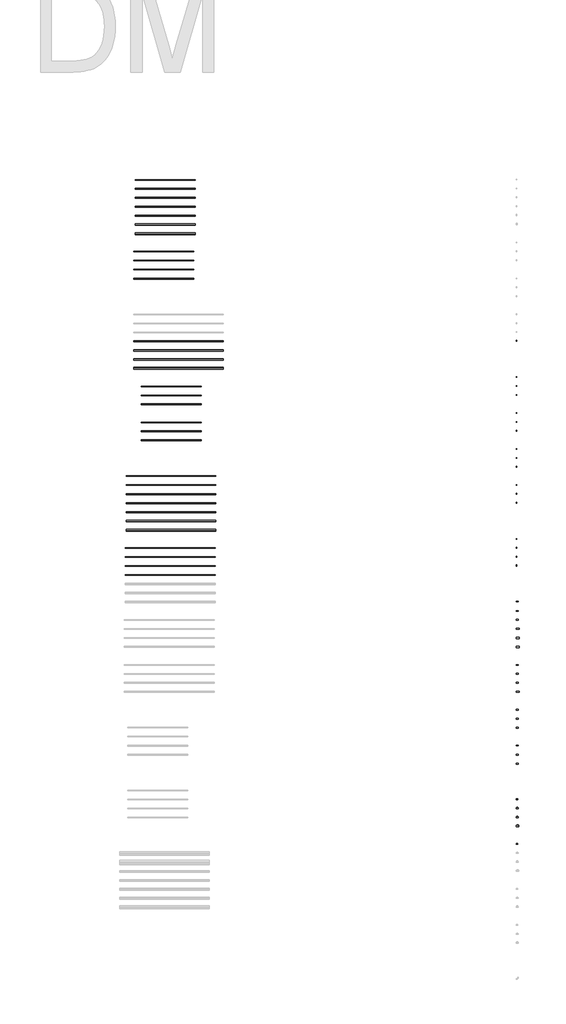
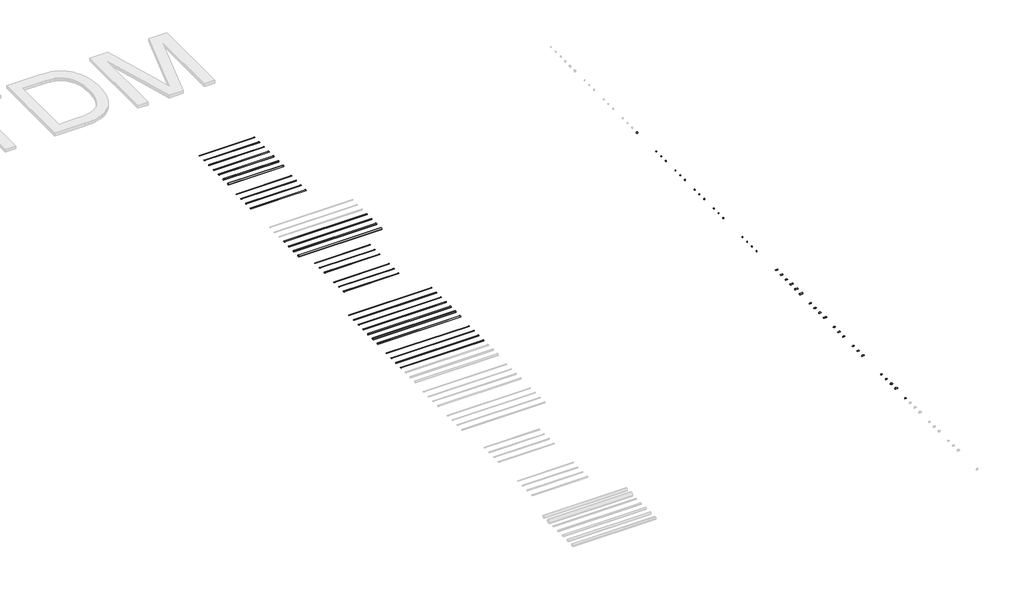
# One storey, part 2 of 3: 38 cable carrier fittings, 32 cable carrier segments.
"""IFC4 building model written with IfcOpenShell, lengths in millimetres."""

from ifc_helpers import new_model, si_unit, point, frame, frame_2d, origin, place, context, project, spatial, circle_curve, trimmed, segment, composite_curve, outline, extrude, transform, mapped, element, save
from components import cable_carrier_fitting_b63e1f67, cable_carrier_fitting_980a1c15, cable_carrier_fitting_f0880343, cable_carrier_fitting_b8314db6, cable_carrier_fitting_016265ef, cable_carrier_fitting_5e57e737, cable_carrier_fitting_914e6720, cable_carrier_fitting_5dce2548, cable_carrier_fitting_52ab9c74, cable_carrier_fitting_fdccebc8, cable_carrier_fitting_8a820bfa, cable_carrier_fitting_152d4620, cable_carrier_fitting_43ac811c, cable_carrier_fitting_233ad362, cable_carrier_fitting_b32524ae, cable_carrier_fitting_62cbf1a6, cable_carrier_fitting_25dcd06c, cable_carrier_fitting_f1925367

model = new_model("IFC4")

# Units and contexts
model_context = context("Model", 3, world=origin())
ifc_project = project(units=[si_unit("LENGTHUNIT", "METRE", prefix="MILLI")], contexts=[model_context])

# Site, building, storey
site = spatial("IfcSite", under=ifc_project)
building = spatial("IfcBuilding", under=site)
storey = spatial("IfcBuildingStorey", under=building, Name="Уровень 2", Elevation=4000.0)

# Cable carrier fittings
placement = place(None, origin())
cable_carrier_fitting_shape = cable_carrier_fitting_b63e1f67(model_context)
element("IfcCableCarrierFitting", 1, ObjectType="Крепеж-клипса_для_труб : Крепеж-клипса для трубы 32мм белая", at=placement, inside=storey, context=model_context, shape_type="MappedRepresentation", body=[
    mapped(cable_carrier_fitting_shape, transform((27300.1376507, 7937.159569, 4000.0), x_axis=(1.0, 0.0, 0.0), y_axis=(0.0, 1.0, 0.0), z_axis=(0.0, 0.0, 1.0))),
])
cable_carrier_fitting_2_shape = cable_carrier_fitting_980a1c15(model_context)
element("IfcCableCarrierFitting", 2, ObjectType="Крепеж-клипса_для_труб : Крепеж-клипса для трубы ПНД 16мм черный", at=placement, inside=storey, context=model_context, shape_type="MappedRepresentation", body=[
    mapped(cable_carrier_fitting_2_shape, transform((27300.1376507, 6729.159569, 4000.0), x_axis=(1.0, 0.0, 0.0), y_axis=(0.0, 1.0, 0.0), z_axis=(0.0, 0.0, 1.0))),
])
cable_carrier_fitting_3_shape = cable_carrier_fitting_f0880343(model_context)
element("IfcCableCarrierFitting", 3, ObjectType="Крепеж-клипса_для_труб : Крепеж-клипса для трубы ПНД 20мм черный", at=placement, inside=storey, context=model_context, shape_type="MappedRepresentation", body=[
    mapped(cable_carrier_fitting_3_shape, transform((27300.1376507, 6431.159569, 4000.0), x_axis=(1.0, 0.0, 0.0), y_axis=(0.0, 1.0, 0.0), z_axis=(0.0, 0.0, 1.0))),
])
cable_carrier_fitting_4_shape = cable_carrier_fitting_b8314db6(model_context)
element("IfcCableCarrierFitting", 4, ObjectType="Крепеж-клипса_для_труб : Крепеж-клипса для трубы ПНД 25мм черный", at=placement, inside=storey, context=model_context, shape_type="MappedRepresentation", body=[
    mapped(cable_carrier_fitting_4_shape, transform((27300.1376507, 6133.659569, 4000.0), x_axis=(1.0, 0.0, 0.0), y_axis=(0.0, 1.0, 0.0), z_axis=(0.0, 0.0, 1.0))),
])
element("IfcCableCarrierFitting", 5, ObjectType="Крепеж-клипса_для_труб : Крепеж-клипса для трубы ПНД 16мм оранжевая", at=placement, inside=storey, context=model_context, shape_type="MappedRepresentation", body=[
    mapped(cable_carrier_fitting_2_shape, transform((27300.1376507, 5529.159569, 4000.0), x_axis=(1.0, 0.0, 0.0), y_axis=(0.0, 1.0, 0.0), z_axis=(0.0, 0.0, 1.0))),
])
element("IfcCableCarrierFitting", 6, ObjectType="Крепеж-клипса_для_труб : Крепеж-клипса для трубы ПНД 20мм оранжевая", at=placement, inside=storey, context=model_context, shape_type="MappedRepresentation", body=[
    mapped(cable_carrier_fitting_3_shape, transform((27300.1376507, 5231.159569, 4000.0), x_axis=(1.0, 0.0, 0.0), y_axis=(0.0, 1.0, 0.0), z_axis=(0.0, 0.0, 1.0))),
])
element("IfcCableCarrierFitting", 7, ObjectType="Крепеж-клипса_для_труб : Крепеж-клипса для трубы ПНД 25мм оранжевая", at=placement, inside=storey, context=model_context, shape_type="MappedRepresentation", body=[
    mapped(cable_carrier_fitting_4_shape, transform((27300.1376507, 4933.659569, 4000.0), x_axis=(1.0, 0.0, 0.0), y_axis=(0.0, 1.0, 0.0), z_axis=(0.0, 0.0, 1.0))),
])
element("IfcCableCarrierFitting", 8, ObjectType="Крепеж-клипса_для_труб : Крепеж-клипса для трубы ПНД 16мм синяя", at=placement, inside=storey, context=model_context, shape_type="MappedRepresentation", body=[
    mapped(cable_carrier_fitting_2_shape, transform((27300.1376507, 4329.159569, 4000.0), x_axis=(1.0, 0.0, 0.0), y_axis=(0.0, 1.0, 0.0), z_axis=(0.0, 0.0, 1.0))),
])
element("IfcCableCarrierFitting", 9, ObjectType="Крепеж-клипса_для_труб : Крепеж-клипса для трубы ПНД 20мм синяя", at=placement, inside=storey, context=model_context, shape_type="MappedRepresentation", body=[
    mapped(cable_carrier_fitting_3_shape, transform((27300.1376507, 4031.159569, 4000.0), x_axis=(1.0, 0.0, 0.0), y_axis=(0.0, 1.0, 0.0), z_axis=(0.0, 0.0, 1.0))),
])
element("IfcCableCarrierFitting", 10, ObjectType="Крепеж-клипса_для_труб : Крепеж-клипса для трубы ПНД 25мм синяя", at=placement, inside=storey, context=model_context, shape_type="MappedRepresentation", body=[
    mapped(cable_carrier_fitting_4_shape, transform((27300.1376507, 3733.659569, 4000.0), x_axis=(1.0, 0.0, 0.0), y_axis=(0.0, 1.0, 0.0), z_axis=(0.0, 0.0, 1.0))),
])
element("IfcCableCarrierFitting", 11, ObjectType="Крепеж-клипса_для_труб : Крепеж-клипса для трубы ПНД 16мм красная", at=placement, inside=storey, context=model_context, shape_type="MappedRepresentation", body=[
    mapped(cable_carrier_fitting_2_shape, transform((27300.1376507, 3129.159569, 4000.0), x_axis=(1.0, 0.0, 0.0), y_axis=(0.0, 1.0, 0.0), z_axis=(0.0, 0.0, 1.0))),
])
element("IfcCableCarrierFitting", 12, ObjectType="Крепеж-клипса_для_труб : Крепеж-клипса для трубы ПНД 20мм красная", at=placement, inside=storey, context=model_context, shape_type="MappedRepresentation", body=[
    mapped(cable_carrier_fitting_3_shape, transform((27300.1376507, 2831.159569, 4000.0), x_axis=(1.0, 0.0, 0.0), y_axis=(0.0, 1.0, 0.0), z_axis=(0.0, 0.0, 1.0))),
])
element("IfcCableCarrierFitting", 13, ObjectType="Крепеж-клипса_для_труб : Крепеж-клипса для трубы ПНД 25мм красная", at=placement, inside=storey, context=model_context, shape_type="MappedRepresentation", body=[
    mapped(cable_carrier_fitting_4_shape, transform((27300.1376507, 2533.659569, 4000.0), x_axis=(1.0, 0.0, 0.0), y_axis=(0.0, 1.0, 0.0), z_axis=(0.0, 0.0, 1.0))),
])
cable_carrier_fitting_5_shape = cable_carrier_fitting_016265ef(model_context)
element("IfcCableCarrierFitting", 14, ObjectType="Муфта_соед._для_труб : Муфта соед. для трубы 16мм (100шт)", at=placement, inside=storey, context=model_context, shape_type="MappedRepresentation", body=[
    mapped(cable_carrier_fitting_5_shape, transform((27325.1376507, -770.340431, 4000.0), x_axis=(1.0, 0.0, 0.0), y_axis=(0.0, 1.0, 0.0), z_axis=(0.0, 0.0, 1.0))),
])
cable_carrier_fitting_6_shape = cable_carrier_fitting_5e57e737(model_context)
element("IfcCableCarrierFitting", 15, ObjectType="Муфта_соед._для_труб : Муфта соед. для трубы 20мм (50шт)", at=placement, inside=storey, context=model_context, shape_type="MappedRepresentation", body=[
    mapped(cable_carrier_fitting_6_shape, transform((27325.1376507, -1080.340431, 4000.0), x_axis=(1.0, 0.0, 0.0), y_axis=(0.0, 1.0, 0.0), z_axis=(0.0, 0.0, 1.0))),
])
cable_carrier_fitting_7_shape = cable_carrier_fitting_914e6720(model_context)
element("IfcCableCarrierFitting", 16, ObjectType="Муфта_соед._для_труб : Муфта соед. для трубы 25мм (50шт)", at=placement, inside=storey, context=model_context, shape_type="MappedRepresentation", body=[
    mapped(cable_carrier_fitting_7_shape, transform((27325.1376507, -1380.340431, 4000.0), x_axis=(-1.0, 0.0, 0.0), y_axis=(0.0, 1.0, 0.0), z_axis=(0.0, 0.0, -1.0))),
])
cable_carrier_fitting_8_shape = cable_carrier_fitting_5dce2548(model_context)
element("IfcCableCarrierFitting", 17, ObjectType="Муфта_соед._для_труб : Муфта соед. для трубы 32мм (25шт)", at=placement, inside=storey, context=model_context, shape_type="MappedRepresentation", body=[
    mapped(cable_carrier_fitting_8_shape, transform((27340.1376507, -1680.340431, 4000.0), x_axis=(1.0, 0.0, 0.0), y_axis=(0.0, 1.0, 0.0), z_axis=(0.0, 0.0, 1.0))),
])
cable_carrier_fitting_9_shape = cable_carrier_fitting_52ab9c74(model_context)
element("IfcCableCarrierFitting", 18, ObjectType="Муфта_соед._для_труб : Муфта соед. для трубы 40мм", at=placement, inside=storey, context=model_context, shape_type="MappedRepresentation", body=[
    mapped(cable_carrier_fitting_9_shape, transform((27340.1376507, -1980.340431, 4000.0), x_axis=(1.0, 0.0, 0.0), y_axis=(0.0, 1.0, 0.0), z_axis=(0.0, 0.0, 1.0))),
])
cable_carrier_fitting_10_shape = cable_carrier_fitting_fdccebc8(model_context)
element("IfcCableCarrierFitting", 19, ObjectType="Муфта_соед._для_труб : Муфта соед. для трубы 50мм", at=placement, inside=storey, context=model_context, shape_type="MappedRepresentation", body=[
    mapped(cable_carrier_fitting_10_shape, transform((27340.1376507, -2280.340431, 4000.0), x_axis=(1.0, 0.0, 0.0), y_axis=(0.0, 1.0, 0.0), z_axis=(0.0, 0.0, 1.0))),
])
element("IfcCableCarrierFitting", 20, ObjectType="Муфта_соед._для_труб : Муфта соед. для трубы 20мм (5шт)", at=placement, inside=storey, context=model_context, shape_type="MappedRepresentation", body=[
    mapped(cable_carrier_fitting_6_shape, transform((27325.1376507, -3180.340431, 4000.0), x_axis=(1.0, 0.0, 0.0), y_axis=(0.0, 1.0, 0.0), z_axis=(0.0, 0.0, 1.0))),
])
element("IfcCableCarrierFitting", 21, ObjectType="Муфта_соед._для_труб : Муфта соед. для трубы 25мм (5шт)", at=placement, inside=storey, context=model_context, shape_type="MappedRepresentation", body=[
    mapped(cable_carrier_fitting_7_shape, transform((27325.1376507, -3480.340431, 4000.0), x_axis=(1.0, 0.0, 0.0), y_axis=(0.0, 1.0, 0.0), z_axis=(0.0, 0.0, 1.0))),
])
element("IfcCableCarrierFitting", 22, ObjectType="Муфта_соед._для_труб : Муфта соед. для трубы 32мм (5шт)", at=placement, inside=storey, context=model_context, shape_type="MappedRepresentation", body=[
    mapped(cable_carrier_fitting_8_shape, transform((27340.1376507, -3780.340431, 4000.0), x_axis=(1.0, 0.0, 0.0), y_axis=(0.0, 1.0, 0.0), z_axis=(0.0, 0.0, 1.0))),
])
element("IfcCableCarrierFitting", 23, ObjectType="Муфта_соед._для_труб : Муфта соед. для трубы 16мм сосна", at=placement, inside=storey, context=model_context, shape_type="MappedRepresentation", body=[
    mapped(cable_carrier_fitting_5_shape, transform((27325.1376507, -4380.340431, 4000.0), x_axis=(1.0, 0.0, 0.0), y_axis=(0.0, 1.0, 0.0), z_axis=(0.0, 0.0, 1.0))),
])
element("IfcCableCarrierFitting", 24, ObjectType="Муфта_соед._для_труб : Муфта соед. для трубы 20мм сосна", at=placement, inside=storey, context=model_context, shape_type="MappedRepresentation", body=[
    mapped(cable_carrier_fitting_6_shape, transform((27325.1376507, -4680.340431, 4000.0), x_axis=(1.0, 0.0, 0.0), y_axis=(0.0, 1.0, 0.0), z_axis=(0.0, 0.0, 1.0))),
])
element("IfcCableCarrierFitting", 25, ObjectType="Муфта_соед._для_труб : Муфта соед. для трубы 25мм сосна", at=placement, inside=storey, context=model_context, shape_type="MappedRepresentation", body=[
    mapped(cable_carrier_fitting_7_shape, transform((27325.1376507, -4980.340431, 4000.0), x_axis=(1.0, 0.0, 0.0), y_axis=(0.0, 1.0, 0.0), z_axis=(0.0, 0.0, 1.0))),
])
element("IfcCableCarrierFitting", 26, ObjectType="Муфта_соед._для_труб : Муфта соед. для трубы 16мм белая", at=placement, inside=storey, context=model_context, shape_type="MappedRepresentation", body=[
    mapped(cable_carrier_fitting_5_shape, transform((27325.1376507, -5580.340431, 4000.0), x_axis=(1.0, 0.0, 0.0), y_axis=(0.0, 1.0, 0.0), z_axis=(0.0, 0.0, 1.0))),
])
element("IfcCableCarrierFitting", 27, ObjectType="Муфта_соед._для_труб : Муфта соед. для трубы 20мм белая", at=placement, inside=storey, context=model_context, shape_type="MappedRepresentation", body=[
    mapped(cable_carrier_fitting_6_shape, transform((27325.1376507, -5880.340431, 4000.0), x_axis=(1.0, 0.0, 0.0), y_axis=(0.0, 1.0, 0.0), z_axis=(0.0, 0.0, 1.0))),
])
element("IfcCableCarrierFitting", 28, ObjectType="Муфта_соед._для_труб : Муфта соед. для трубы 25мм белая", at=placement, inside=storey, context=model_context, shape_type="MappedRepresentation", body=[
    mapped(cable_carrier_fitting_7_shape, transform((27325.1376507, -6180.340431, 4000.0), x_axis=(1.0, 0.0, 0.0), y_axis=(0.0, 1.0, 0.0), z_axis=(0.0, 0.0, 1.0))),
])
cable_carrier_fitting_11_shape = cable_carrier_fitting_8a820bfa(model_context)
element("IfcCableCarrierFitting", 29, ObjectType="Тройник_соед._для_трубы : Тройник соед. для трубы 16мм (50шт) серый", at=placement, inside=storey, context=model_context, shape_type="MappedRepresentation", body=[
    mapped(cable_carrier_fitting_11_shape, transform((27315.1376507, -7370.340431, 4000.0), x_axis=(1.0, 0.0, 0.0), y_axis=(0.0, 1.0, 0.0), z_axis=(0.0, 0.0, 1.0))),
])
cable_carrier_fitting_12_shape = cable_carrier_fitting_152d4620(model_context)
element("IfcCableCarrierFitting", 30, ObjectType="Тройник_соед._для_трубы : Тройник соед. для трубы 20мм (50шт) серый", at=placement, inside=storey, context=model_context, shape_type="MappedRepresentation", body=[
    mapped(cable_carrier_fitting_12_shape, transform((27320.1376507, -7669.340431, 4000.0), x_axis=(1.0, 0.0, 0.0), y_axis=(0.0, 1.0, 0.0), z_axis=(0.0, 0.0, 1.0))),
])
cable_carrier_fitting_13_shape = cable_carrier_fitting_43ac811c(model_context)
element("IfcCableCarrierFitting", 31, ObjectType="Тройник_соед._для_трубы : Тройник соед. для трубы 25 мм (25шт) серый", at=placement, inside=storey, context=model_context, shape_type="MappedRepresentation", body=[
    mapped(cable_carrier_fitting_13_shape, transform((27325.1376507, -7966.840431, 4000.0), x_axis=(1.0, 0.0, 0.0), y_axis=(0.0, 1.0, 0.0), z_axis=(0.0, 0.0, 1.0))),
])
cable_carrier_fitting_14_shape = cable_carrier_fitting_233ad362(model_context)
element("IfcCableCarrierFitting", 32, ObjectType="Тройник_соед._для_трубы : Тройник соед. для трубы 32мм (10шт) серый", at=placement, inside=storey, context=model_context, shape_type="MappedRepresentation", body=[
    mapped(cable_carrier_fitting_14_shape, transform((27330.1376507, -8262.840431, 4000.0), x_axis=(1.0, 0.0, 0.0), y_axis=(0.0, 1.0, 0.0), z_axis=(0.0, 0.0, 1.0))),
])
element("IfcCableCarrierFitting", 33, ObjectType="Тройник_соед._для_трубы : Тройник соед. для трубы 16мм (5шт) серый", at=placement, inside=storey, context=model_context, shape_type="MappedRepresentation", body=[
    mapped(cable_carrier_fitting_11_shape, transform((27315.1376507, -8870.340431, 4000.0), x_axis=(1.0, 0.0, 0.0), y_axis=(0.0, 1.0, 0.0), z_axis=(0.0, 0.0, 1.0))),
])
cable_carrier_fitting_15_shape = cable_carrier_fitting_b32524ae(model_context)
element("IfcCableCarrierFitting", 34, ObjectType="Крепеж-клипса_для_труб_с_фиксатором : Крепеж-клипса для трубы D16мм с фиксатором", at=placement, inside=storey, context=model_context, shape_type="MappedRepresentation", body=[
    mapped(cable_carrier_fitting_15_shape, transform((27296.1376507, 1329.159569, 4000.0), x_axis=(1.0, 0.0, 0.0), y_axis=(0.0, 1.0, 0.0), z_axis=(0.0, 0.0, 1.0))),
])
cable_carrier_fitting_16_shape = cable_carrier_fitting_62cbf1a6(model_context)
element("IfcCableCarrierFitting", 35, ObjectType="Крепеж-клипса_для_труб_с_фиксатором : Крепеж-клипса для трубы D20мм с фиксатором", at=placement, inside=storey, context=model_context, shape_type="MappedRepresentation", body=[
    mapped(cable_carrier_fitting_16_shape, transform((27296.1376507, 1031.159569, 4000.0), x_axis=(1.0, 0.0, 0.0), y_axis=(0.0, 1.0, 0.0), z_axis=(0.0, 0.0, 1.0))),
])
cable_carrier_fitting_17_shape = cable_carrier_fitting_25dcd06c(model_context)
element("IfcCableCarrierFitting", 36, ObjectType="Крепеж-клипса_для_труб_с_фиксатором : Крепеж-клипса для трубы D25мм с фиксатором", at=placement, inside=storey, context=model_context, shape_type="MappedRepresentation", body=[
    mapped(cable_carrier_fitting_17_shape, transform((27296.1376507, 733.659569, 4000.0), x_axis=(1.0, 0.0, 0.0), y_axis=(0.0, 1.0, 0.0), z_axis=(0.0, 0.0, 1.0))),
])
cable_carrier_fitting_18_shape = cable_carrier_fitting_f1925367(model_context)
element("IfcCableCarrierFitting", 37, ObjectType="Крепеж-клипса_для_труб_с_фиксатором : Крепеж-клипса для трубы D32мм с фиксатором", at=placement, inside=storey, context=model_context, shape_type="MappedRepresentation", body=[
    mapped(cable_carrier_fitting_18_shape, transform((27296.1376507, 437.159569, 4000.0), x_axis=(1.0, 0.0, 0.0), y_axis=(0.0, 1.0, 0.0), z_axis=(0.0, 0.0, 1.0))),
])
element("IfcCableCarrierFitting", 38, ObjectType="Муфта_соед._для_труб : Муфта соед. для труб 16мм (10шт)", at=placement, inside=storey, context=model_context, shape_type="MappedRepresentation", body=[
    mapped(cable_carrier_fitting_5_shape, transform((27325.1376507, -2880.340431, 4000.0), x_axis=(1.0, 0.0, 0.0), y_axis=(0.0, 1.0, 0.0), z_axis=(0.0, 0.0, 1.0))),
])

# Cable carrier segments
element("IfcCableCarrierSegment", 39, ObjectType="По умолчанию", at=placement, inside=storey, context=model_context, shape_type="SweptSolid", body=[
    extrude(outline(composite_curve([segment(trimmed(circle_curve(frame_2d((13319.659569, 4300.0)), 8.965), [point((13310.694569, 4300.0))], [point((13319.659569, 4308.965))], False, "CARTESIAN"), True, "CONTINUOUS"), segment(trimmed(circle_curve(frame_2d((13319.659569, 4300.0)), 8.965), [point((13319.659569, 4308.965))], [point((13328.624569, 4300.0))], False, "CARTESIAN"), True, "CONTINUOUS"), segment(trimmed(circle_curve(frame_2d((13319.659569, 4300.0)), 8.965), [point((13328.624569, 4300.0))], [point((13319.659569, 4291.035))], False, "CARTESIAN"), True, "CONTINUOUS"), segment(trimmed(circle_curve(frame_2d((13319.659569, 4300.0)), 8.965), [point((13319.659569, 4291.035))], [point((13310.694569, 4300.0))], False, "CARTESIAN"), True, "CONTINUOUS")], self_intersect=False)), frame((14561.9305162, 0.0, 0.0), z_axis=(1.0, 0.0, 0.0), x_axis=(0.0, 1.0, 0.0)), (0.0, 0.0, 1.0), 2000.0),
])
element("IfcCableCarrierSegment", 40, ObjectType="По умолчанию", at=placement, inside=storey, context=model_context, shape_type="SweptSolid", body=[
    extrude(outline(composite_curve([segment(trimmed(circle_curve(frame_2d((13019.659569, 4300.0)), 10.0), [point((13009.659569, 4300.0))], [point((13019.659569, 4310.0))], False, "CARTESIAN"), True, "CONTINUOUS"), segment(trimmed(circle_curve(frame_2d((13019.659569, 4300.0)), 10.0), [point((13019.659569, 4310.0))], [point((13029.659569, 4300.0))], False, "CARTESIAN"), True, "CONTINUOUS"), segment(trimmed(circle_curve(frame_2d((13019.659569, 4300.0)), 10.0), [point((13029.659569, 4300.0))], [point((13019.659569, 4290.0))], False, "CARTESIAN"), True, "CONTINUOUS"), segment(trimmed(circle_curve(frame_2d((13019.659569, 4300.0)), 10.0), [point((13019.659569, 4290.0))], [point((13009.659569, 4300.0))], False, "CARTESIAN"), True, "CONTINUOUS")], self_intersect=False)), frame((14561.9305162, 0.0, 0.0), z_axis=(1.0, 0.0, 0.0), x_axis=(0.0, 1.0, 0.0)), (0.0, 0.0, 1.0), 2000.0),
])
element("IfcCableCarrierSegment", 41, ObjectType="По умолчанию", at=placement, inside=storey, context=model_context, shape_type="SweptSolid", body=[
    extrude(outline(composite_curve([segment(trimmed(circle_curve(frame_2d((12719.659569, 4300.0)), 12.5), [point((12707.159569, 4300.0))], [point((12719.659569, 4312.5))], False, "CARTESIAN"), True, "CONTINUOUS"), segment(trimmed(circle_curve(frame_2d((12719.659569, 4300.0)), 12.5), [point((12719.659569, 4312.5))], [point((12732.159569, 4300.0))], False, "CARTESIAN"), True, "CONTINUOUS"), segment(trimmed(circle_curve(frame_2d((12719.659569, 4300.0)), 12.5), [point((12732.159569, 4300.0))], [point((12719.659569, 4287.5))], False, "CARTESIAN"), True, "CONTINUOUS"), segment(trimmed(circle_curve(frame_2d((12719.659569, 4300.0)), 12.5), [point((12719.659569, 4287.5))], [point((12707.159569, 4300.0))], False, "CARTESIAN"), True, "CONTINUOUS")], self_intersect=False)), frame((14561.9305162, 0.0, 0.0), z_axis=(1.0, 0.0, 0.0), x_axis=(0.0, 1.0, 0.0)), (0.0, 0.0, 1.0), 2000.0),
])
element("IfcCableCarrierSegment", 42, ObjectType="По умолчанию", at=placement, inside=storey, context=model_context, shape_type="SweptSolid", body=[
    extrude(outline(composite_curve([segment(trimmed(circle_curve(frame_2d((12419.659569, 4300.0)), 16.0), [point((12403.659569, 4300.0))], [point((12419.659569, 4316.0))], False, "CARTESIAN"), True, "CONTINUOUS"), segment(trimmed(circle_curve(frame_2d((12419.659569, 4300.0)), 16.0), [point((12419.659569, 4316.0))], [point((12435.659569, 4300.0))], False, "CARTESIAN"), True, "CONTINUOUS"), segment(trimmed(circle_curve(frame_2d((12419.659569, 4300.0)), 16.0), [point((12435.659569, 4300.0))], [point((12419.659569, 4284.0))], False, "CARTESIAN"), True, "CONTINUOUS"), segment(trimmed(circle_curve(frame_2d((12419.659569, 4300.0)), 16.0), [point((12419.659569, 4284.0))], [point((12403.659569, 4300.0))], False, "CARTESIAN"), True, "CONTINUOUS")], self_intersect=False)), frame((14561.9305162, 0.0, 0.0), z_axis=(1.0, 0.0, 0.0), x_axis=(0.0, 1.0, 0.0)), (0.0, 0.0, 1.0), 2000.0),
])
element("IfcCableCarrierSegment", 43, ObjectType="По умолчанию", at=placement, inside=storey, context=model_context, shape_type="SweptSolid", body=[
    extrude(outline(composite_curve([segment(trimmed(circle_curve(frame_2d((12119.659569, 4300.0)), 20.0), [point((12099.659569, 4300.0))], [point((12119.659569, 4320.0))], False, "CARTESIAN"), True, "CONTINUOUS"), segment(trimmed(circle_curve(frame_2d((12119.659569, 4300.0)), 20.0), [point((12119.659569, 4320.0))], [point((12139.659569, 4300.0))], False, "CARTESIAN"), True, "CONTINUOUS"), segment(trimmed(circle_curve(frame_2d((12119.659569, 4300.0)), 20.0), [point((12139.659569, 4300.0))], [point((12119.659569, 4280.0))], False, "CARTESIAN"), True, "CONTINUOUS"), segment(trimmed(circle_curve(frame_2d((12119.659569, 4300.0)), 20.0), [point((12119.659569, 4280.0))], [point((12099.659569, 4300.0))], False, "CARTESIAN"), True, "CONTINUOUS")], self_intersect=False)), frame((14561.9305162, 0.0, 0.0), z_axis=(1.0, 0.0, 0.0), x_axis=(0.0, 1.0, 0.0)), (0.0, 0.0, 1.0), 2000.0),
])
element("IfcCableCarrierSegment", 44, ObjectType="По умолчанию", at=placement, inside=storey, context=model_context, shape_type="SweptSolid", body=[
    extrude(outline(composite_curve([segment(trimmed(circle_curve(frame_2d((11819.659569, 4300.0)), 25.0), [point((11794.659569, 4300.0))], [point((11819.659569, 4325.0))], False, "CARTESIAN"), True, "CONTINUOUS"), segment(trimmed(circle_curve(frame_2d((11819.659569, 4300.0)), 25.0), [point((11819.659569, 4325.0))], [point((11844.659569, 4300.0))], False, "CARTESIAN"), True, "CONTINUOUS"), segment(trimmed(circle_curve(frame_2d((11819.659569, 4300.0)), 25.0), [point((11844.659569, 4300.0))], [point((11819.659569, 4275.0))], False, "CARTESIAN"), True, "CONTINUOUS"), segment(trimmed(circle_curve(frame_2d((11819.659569, 4300.0)), 25.0), [point((11819.659569, 4275.0))], [point((11794.659569, 4300.0))], False, "CARTESIAN"), True, "CONTINUOUS")], self_intersect=False)), frame((14561.9305162, 0.0, 0.0), z_axis=(1.0, 0.0, 0.0), x_axis=(0.0, 1.0, 0.0)), (0.0, 0.0, 1.0), 2000.0),
])
element("IfcCableCarrierSegment", 45, ObjectType="По умолчанию", at=placement, inside=storey, context=model_context, shape_type="SweptSolid", body=[
    extrude(outline(composite_curve([segment(trimmed(circle_curve(frame_2d((11519.659569, 4300.0)), 31.5), [point((11488.159569, 4300.0))], [point((11519.659569, 4331.5))], False, "CARTESIAN"), True, "CONTINUOUS"), segment(trimmed(circle_curve(frame_2d((11519.659569, 4300.0)), 31.5), [point((11519.659569, 4331.5))], [point((11551.159569, 4300.0))], False, "CARTESIAN"), True, "CONTINUOUS"), segment(trimmed(circle_curve(frame_2d((11519.659569, 4300.0)), 31.5), [point((11551.159569, 4300.0))], [point((11519.659569, 4268.5))], False, "CARTESIAN"), True, "CONTINUOUS"), segment(trimmed(circle_curve(frame_2d((11519.659569, 4300.0)), 31.5), [point((11519.659569, 4268.5))], [point((11488.159569, 4300.0))], False, "CARTESIAN"), True, "CONTINUOUS")], self_intersect=False)), frame((14561.9305162, 0.0, 0.0), z_axis=(1.0, 0.0, 0.0), x_axis=(0.0, 1.0, 0.0)), (0.0, 0.0, 1.0), 2000.0),
])
element("IfcCableCarrierSegment", 46, ObjectType="По умолчанию", at=placement, inside=storey, context=model_context, shape_type="SweptSolid", body=[
    extrude(outline(composite_curve([segment(trimmed(circle_curve(frame_2d((10919.659569, 4298.8376424)), 8.965), [point((10910.694569, 4298.8376424))], [point((10919.659569, 4307.8026424))], False, "CARTESIAN"), True, "CONTINUOUS"), segment(trimmed(circle_curve(frame_2d((10919.659569, 4298.8376424)), 8.965), [point((10919.659569, 4307.8026424))], [point((10928.624569, 4298.8376424))], False, "CARTESIAN"), True, "CONTINUOUS"), segment(trimmed(circle_curve(frame_2d((10919.659569, 4298.8376424)), 8.965), [point((10928.624569, 4298.8376424))], [point((10919.659569, 4289.8726424))], False, "CARTESIAN"), True, "CONTINUOUS"), segment(trimmed(circle_curve(frame_2d((10919.659569, 4298.8376424)), 8.965), [point((10919.659569, 4289.8726424))], [point((10910.694569, 4298.8376424))], False, "CARTESIAN"), True, "CONTINUOUS")], self_intersect=False)), frame((14508.3388088, 0.0, 0.0), z_axis=(1.0, 0.0, 0.0), x_axis=(0.0, 1.0, 0.0)), (0.0, 0.0, 1.0), 2000.0),
])
element("IfcCableCarrierSegment", 47, ObjectType="По умолчанию", at=placement, inside=storey, context=model_context, shape_type="SweptSolid", body=[
    extrude(outline(composite_curve([segment(trimmed(circle_curve(frame_2d((10619.659569, 4298.8376424)), 10.0), [point((10609.659569, 4298.8376424))], [point((10619.659569, 4308.8376424))], False, "CARTESIAN"), True, "CONTINUOUS"), segment(trimmed(circle_curve(frame_2d((10619.659569, 4298.8376424)), 10.0), [point((10619.659569, 4308.8376424))], [point((10629.659569, 4298.8376424))], False, "CARTESIAN"), True, "CONTINUOUS"), segment(trimmed(circle_curve(frame_2d((10619.659569, 4298.8376424)), 10.0), [point((10629.659569, 4298.8376424))], [point((10619.659569, 4288.8376424))], False, "CARTESIAN"), True, "CONTINUOUS"), segment(trimmed(circle_curve(frame_2d((10619.659569, 4298.8376424)), 10.0), [point((10619.659569, 4288.8376424))], [point((10609.659569, 4298.8376424))], False, "CARTESIAN"), True, "CONTINUOUS")], self_intersect=False)), frame((14508.3388088, 0.0, 0.0), z_axis=(1.0, 0.0, 0.0), x_axis=(0.0, 1.0, 0.0)), (0.0, 0.0, 1.0), 2000.0),
])
element("IfcCableCarrierSegment", 48, ObjectType="По умолчанию", at=placement, inside=storey, context=model_context, shape_type="SweptSolid", body=[
    extrude(outline(composite_curve([segment(trimmed(circle_curve(frame_2d((10319.659569, 4298.8376424)), 12.5), [point((10307.159569, 4298.8376424))], [point((10319.659569, 4311.3376424))], False, "CARTESIAN"), True, "CONTINUOUS"), segment(trimmed(circle_curve(frame_2d((10319.659569, 4298.8376424)), 12.5), [point((10319.659569, 4311.3376424))], [point((10332.159569, 4298.8376424))], False, "CARTESIAN"), True, "CONTINUOUS"), segment(trimmed(circle_curve(frame_2d((10319.659569, 4298.8376424)), 12.5), [point((10332.159569, 4298.8376424))], [point((10319.659569, 4286.3376424))], False, "CARTESIAN"), True, "CONTINUOUS"), segment(trimmed(circle_curve(frame_2d((10319.659569, 4298.8376424)), 12.5), [point((10319.659569, 4286.3376424))], [point((10307.159569, 4298.8376424))], False, "CARTESIAN"), True, "CONTINUOUS")], self_intersect=False)), frame((14508.3388088, 0.0, 0.0), z_axis=(1.0, 0.0, 0.0), x_axis=(0.0, 1.0, 0.0)), (0.0, 0.0, 1.0), 2000.0),
])
element("IfcCableCarrierSegment", 49, ObjectType="По умолчанию", at=placement, inside=storey, context=model_context, shape_type="SweptSolid", body=[
    extrude(outline(composite_curve([segment(trimmed(circle_curve(frame_2d((10019.659569, 4298.8376424)), 16.0), [point((10003.659569, 4298.8376424))], [point((10019.659569, 4314.8376424))], False, "CARTESIAN"), True, "CONTINUOUS"), segment(trimmed(circle_curve(frame_2d((10019.659569, 4298.8376424)), 16.0), [point((10019.659569, 4314.8376424))], [point((10035.659569, 4298.8376424))], False, "CARTESIAN"), True, "CONTINUOUS"), segment(trimmed(circle_curve(frame_2d((10019.659569, 4298.8376424)), 16.0), [point((10035.659569, 4298.8376424))], [point((10019.659569, 4282.8376424))], False, "CARTESIAN"), True, "CONTINUOUS"), segment(trimmed(circle_curve(frame_2d((10019.659569, 4298.8376424)), 16.0), [point((10019.659569, 4282.8376424))], [point((10003.659569, 4298.8376424))], False, "CARTESIAN"), True, "CONTINUOUS")], self_intersect=False)), frame((14508.3388088, 0.0, 0.0), z_axis=(1.0, 0.0, 0.0), x_axis=(0.0, 1.0, 0.0)), (0.0, 0.0, 1.0), 2000.0),
])
element("IfcCableCarrierSegment", 50, ObjectType="По умолчанию", at=placement, inside=storey, context=model_context, shape_type="SweptSolid", body=[
    extrude(outline(composite_curve([segment(trimmed(circle_curve(frame_2d((7919.659569, 4298.3533272)), 16.0), [point((7903.659569, 4298.3533272))], [point((7919.659569, 4314.3533272))], False, "CARTESIAN"), True, "CONTINUOUS"), segment(trimmed(circle_curve(frame_2d((7919.659569, 4298.3533272)), 16.0), [point((7919.659569, 4314.3533272))], [point((7935.659569, 4298.3533272))], False, "CARTESIAN"), True, "CONTINUOUS"), segment(trimmed(circle_curve(frame_2d((7919.659569, 4298.3533272)), 16.0), [point((7935.659569, 4298.3533272))], [point((7919.659569, 4282.3533272))], False, "CARTESIAN"), True, "CONTINUOUS"), segment(trimmed(circle_curve(frame_2d((7919.659569, 4298.3533272)), 16.0), [point((7919.659569, 4282.3533272))], [point((7903.659569, 4298.3533272))], False, "CARTESIAN"), True, "CONTINUOUS")], self_intersect=False)), frame((14508.3384569, 0.0, 0.0), z_axis=(1.0, 0.0, 0.0), x_axis=(0.0, 1.0, 0.0)), (0.0, 0.0, 1.0), 3000.0),
])
element("IfcCableCarrierSegment", 51, ObjectType="По умолчанию", at=placement, inside=storey, context=model_context, shape_type="SweptSolid", body=[
    extrude(outline(composite_curve([segment(trimmed(circle_curve(frame_2d((7619.659569, 4298.3533272)), 20.0), [point((7599.659569, 4298.3533272))], [point((7619.659569, 4318.3533272))], False, "CARTESIAN"), True, "CONTINUOUS"), segment(trimmed(circle_curve(frame_2d((7619.659569, 4298.3533272)), 20.0), [point((7619.659569, 4318.3533272))], [point((7639.659569, 4298.3533272))], False, "CARTESIAN"), True, "CONTINUOUS"), segment(trimmed(circle_curve(frame_2d((7619.659569, 4298.3533272)), 20.0), [point((7639.659569, 4298.3533272))], [point((7619.659569, 4278.3533272))], False, "CARTESIAN"), True, "CONTINUOUS"), segment(trimmed(circle_curve(frame_2d((7619.659569, 4298.3533272)), 20.0), [point((7619.659569, 4278.3533272))], [point((7599.659569, 4298.3533272))], False, "CARTESIAN"), True, "CONTINUOUS")], self_intersect=False)), frame((14508.3384569, 0.0, 0.0), z_axis=(1.0, 0.0, 0.0), x_axis=(0.0, 1.0, 0.0)), (0.0, 0.0, 1.0), 3000.0),
])
element("IfcCableCarrierSegment", 52, ObjectType="По умолчанию", at=placement, inside=storey, context=model_context, shape_type="SweptSolid", body=[
    extrude(outline(composite_curve([segment(trimmed(circle_curve(frame_2d((7319.659569, 4298.3533272)), 25.0), [point((7294.659569, 4298.3533272))], [point((7319.659569, 4323.3533272))], False, "CARTESIAN"), True, "CONTINUOUS"), segment(trimmed(circle_curve(frame_2d((7319.659569, 4298.3533272)), 25.0), [point((7319.659569, 4323.3533272))], [point((7344.659569, 4298.3533272))], False, "CARTESIAN"), True, "CONTINUOUS"), segment(trimmed(circle_curve(frame_2d((7319.659569, 4298.3533272)), 25.0), [point((7344.659569, 4298.3533272))], [point((7319.659569, 4273.3533272))], False, "CARTESIAN"), True, "CONTINUOUS"), segment(trimmed(circle_curve(frame_2d((7319.659569, 4298.3533272)), 25.0), [point((7319.659569, 4273.3533272))], [point((7294.659569, 4298.3533272))], False, "CARTESIAN"), True, "CONTINUOUS")], self_intersect=False)), frame((14508.3384569, 0.0, 0.0), z_axis=(1.0, 0.0, 0.0), x_axis=(0.0, 1.0, 0.0)), (0.0, 0.0, 1.0), 3000.0),
])
element("IfcCableCarrierSegment", 53, ObjectType="По умолчанию", at=placement, inside=storey, context=model_context, shape_type="SweptSolid", body=[
    extrude(outline(composite_curve([segment(trimmed(circle_curve(frame_2d((7019.659569, 4298.3533272)), 31.5), [point((6988.159569, 4298.3533272))], [point((7019.659569, 4329.8533272))], False, "CARTESIAN"), True, "CONTINUOUS"), segment(trimmed(circle_curve(frame_2d((7019.659569, 4298.3533272)), 31.5), [point((7019.659569, 4329.8533272))], [point((7051.159569, 4298.3533272))], False, "CARTESIAN"), True, "CONTINUOUS"), segment(trimmed(circle_curve(frame_2d((7019.659569, 4298.3533272)), 31.5), [point((7051.159569, 4298.3533272))], [point((7019.659569, 4266.8533272))], False, "CARTESIAN"), True, "CONTINUOUS"), segment(trimmed(circle_curve(frame_2d((7019.659569, 4298.3533272)), 31.5), [point((7019.659569, 4266.8533272))], [point((6988.159569, 4298.3533272))], False, "CARTESIAN"), True, "CONTINUOUS")], self_intersect=False)), frame((14508.3384569, 0.0, 0.0), z_axis=(1.0, 0.0, 0.0), x_axis=(0.0, 1.0, 0.0)), (0.0, 0.0, 1.0), 3000.0),
])
element("IfcCableCarrierSegment", 54, ObjectType="По умолчанию", at=placement, inside=storey, context=model_context, shape_type="SweptSolid", body=[
    extrude(outline(composite_curve([segment(trimmed(circle_curve(frame_2d((6419.659569, 4298.3533272)), 8.965), [point((6410.694569, 4298.3533272))], [point((6419.659569, 4307.3183272))], False, "CARTESIAN"), True, "CONTINUOUS"), segment(trimmed(circle_curve(frame_2d((6419.659569, 4298.3533272)), 8.965), [point((6419.659569, 4307.3183272))], [point((6428.624569, 4298.3533272))], False, "CARTESIAN"), True, "CONTINUOUS"), segment(trimmed(circle_curve(frame_2d((6419.659569, 4298.3533272)), 8.965), [point((6428.624569, 4298.3533272))], [point((6419.659569, 4289.3883272))], False, "CARTESIAN"), True, "CONTINUOUS"), segment(trimmed(circle_curve(frame_2d((6419.659569, 4298.3533272)), 8.965), [point((6419.659569, 4289.3883272))], [point((6410.694569, 4298.3533272))], False, "CARTESIAN"), True, "CONTINUOUS")], self_intersect=False)), frame((14758.3384569, 0.0, 0.0), z_axis=(1.0, 0.0, 0.0), x_axis=(0.0, 1.0, 0.0)), (0.0, 0.0, 1.0), 2000.0),
])
element("IfcCableCarrierSegment", 55, ObjectType="По умолчанию", at=placement, inside=storey, context=model_context, shape_type="SweptSolid", body=[
    extrude(outline(composite_curve([segment(trimmed(circle_curve(frame_2d((6119.659569, 4298.3533272)), 10.0), [point((6109.659569, 4298.3533272))], [point((6119.659569, 4308.3533272))], False, "CARTESIAN"), True, "CONTINUOUS"), segment(trimmed(circle_curve(frame_2d((6119.659569, 4298.3533272)), 10.0), [point((6119.659569, 4308.3533272))], [point((6129.659569, 4298.3533272))], False, "CARTESIAN"), True, "CONTINUOUS"), segment(trimmed(circle_curve(frame_2d((6119.659569, 4298.3533272)), 10.0), [point((6129.659569, 4298.3533272))], [point((6119.659569, 4288.3533272))], False, "CARTESIAN"), True, "CONTINUOUS"), segment(trimmed(circle_curve(frame_2d((6119.659569, 4298.3533272)), 10.0), [point((6119.659569, 4288.3533272))], [point((6109.659569, 4298.3533272))], False, "CARTESIAN"), True, "CONTINUOUS")], self_intersect=False)), frame((14758.3384569, 0.0, 0.0), z_axis=(1.0, 0.0, 0.0), x_axis=(0.0, 1.0, 0.0)), (0.0, 0.0, 1.0), 2000.0),
])
element("IfcCableCarrierSegment", 56, ObjectType="По умолчанию", at=placement, inside=storey, context=model_context, shape_type="SweptSolid", body=[
    extrude(outline(composite_curve([segment(trimmed(circle_curve(frame_2d((5819.659569, 4298.3533272)), 12.5), [point((5807.159569, 4298.3533272))], [point((5819.659569, 4310.8533272))], False, "CARTESIAN"), True, "CONTINUOUS"), segment(trimmed(circle_curve(frame_2d((5819.659569, 4298.3533272)), 12.5), [point((5819.659569, 4310.8533272))], [point((5832.159569, 4298.3533272))], False, "CARTESIAN"), True, "CONTINUOUS"), segment(trimmed(circle_curve(frame_2d((5819.659569, 4298.3533272)), 12.5), [point((5832.159569, 4298.3533272))], [point((5819.659569, 4285.8533272))], False, "CARTESIAN"), True, "CONTINUOUS"), segment(trimmed(circle_curve(frame_2d((5819.659569, 4298.3533272)), 12.5), [point((5819.659569, 4285.8533272))], [point((5807.159569, 4298.3533272))], False, "CARTESIAN"), True, "CONTINUOUS")], self_intersect=False)), frame((14758.3384569, 0.0, 0.0), z_axis=(1.0, 0.0, 0.0), x_axis=(0.0, 1.0, 0.0)), (0.0, 0.0, 1.0), 2000.0),
])
element("IfcCableCarrierSegment", 57, ObjectType="По умолчанию", at=placement, inside=storey, context=model_context, shape_type="SweptSolid", body=[
    extrude(outline(composite_curve([segment(trimmed(circle_curve(frame_2d((5219.659569, 4298.3533272)), 8.965), [point((5210.694569, 4298.3533272))], [point((5219.659569, 4307.3183272))], False, "CARTESIAN"), True, "CONTINUOUS"), segment(trimmed(circle_curve(frame_2d((5219.659569, 4298.3533272)), 8.965), [point((5219.659569, 4307.3183272))], [point((5228.624569, 4298.3533272))], False, "CARTESIAN"), True, "CONTINUOUS"), segment(trimmed(circle_curve(frame_2d((5219.659569, 4298.3533272)), 8.965), [point((5228.624569, 4298.3533272))], [point((5219.659569, 4289.3883272))], False, "CARTESIAN"), True, "CONTINUOUS"), segment(trimmed(circle_curve(frame_2d((5219.659569, 4298.3533272)), 8.965), [point((5219.659569, 4289.3883272))], [point((5210.694569, 4298.3533272))], False, "CARTESIAN"), True, "CONTINUOUS")], self_intersect=False)), frame((14758.3384569, 0.0, 0.0), z_axis=(1.0, 0.0, 0.0), x_axis=(0.0, 1.0, 0.0)), (0.0, 0.0, 1.0), 2000.0),
])
element("IfcCableCarrierSegment", 58, ObjectType="По умолчанию", at=placement, inside=storey, context=model_context, shape_type="SweptSolid", body=[
    extrude(outline(composite_curve([segment(trimmed(circle_curve(frame_2d((4919.659569, 4298.3533272)), 10.0), [point((4909.659569, 4298.3533272))], [point((4919.659569, 4308.3533272))], False, "CARTESIAN"), True, "CONTINUOUS"), segment(trimmed(circle_curve(frame_2d((4919.659569, 4298.3533272)), 10.0), [point((4919.659569, 4308.3533272))], [point((4929.659569, 4298.3533272))], False, "CARTESIAN"), True, "CONTINUOUS"), segment(trimmed(circle_curve(frame_2d((4919.659569, 4298.3533272)), 10.0), [point((4929.659569, 4298.3533272))], [point((4919.659569, 4288.3533272))], False, "CARTESIAN"), True, "CONTINUOUS"), segment(trimmed(circle_curve(frame_2d((4919.659569, 4298.3533272)), 10.0), [point((4919.659569, 4288.3533272))], [point((4909.659569, 4298.3533272))], False, "CARTESIAN"), True, "CONTINUOUS")], self_intersect=False)), frame((14758.3384569, 0.0, 0.0), z_axis=(1.0, 0.0, 0.0), x_axis=(0.0, 1.0, 0.0)), (0.0, 0.0, 1.0), 2000.0),
])
element("IfcCableCarrierSegment", 59, ObjectType="По умолчанию", at=placement, inside=storey, context=model_context, shape_type="SweptSolid", body=[
    extrude(outline(composite_curve([segment(trimmed(circle_curve(frame_2d((4619.659569, 4298.3533272)), 12.5), [point((4607.159569, 4298.3533272))], [point((4619.659569, 4310.8533272))], False, "CARTESIAN"), True, "CONTINUOUS"), segment(trimmed(circle_curve(frame_2d((4619.659569, 4298.3533272)), 12.5), [point((4619.659569, 4310.8533272))], [point((4632.159569, 4298.3533272))], False, "CARTESIAN"), True, "CONTINUOUS"), segment(trimmed(circle_curve(frame_2d((4619.659569, 4298.3533272)), 12.5), [point((4632.159569, 4298.3533272))], [point((4619.659569, 4285.8533272))], False, "CARTESIAN"), True, "CONTINUOUS"), segment(trimmed(circle_curve(frame_2d((4619.659569, 4298.3533272)), 12.5), [point((4619.659569, 4285.8533272))], [point((4607.159569, 4298.3533272))], False, "CARTESIAN"), True, "CONTINUOUS")], self_intersect=False)), frame((14758.3384569, 0.0, 0.0), z_axis=(1.0, 0.0, 0.0), x_axis=(0.0, 1.0, 0.0)), (0.0, 0.0, 1.0), 2000.0),
])
element("IfcCableCarrierSegment", 60, ObjectType="По умолчанию", at=placement, inside=storey, context=model_context, shape_type="SweptSolid", body=[
    extrude(outline(composite_curve([segment(trimmed(circle_curve(frame_2d((3419.659569, 4298.3533272)), 8.965), [point((3410.694569, 4298.3533272))], [point((3419.659569, 4307.3183272))], False, "CARTESIAN"), True, "CONTINUOUS"), segment(trimmed(circle_curve(frame_2d((3419.659569, 4298.3533272)), 8.965), [point((3419.659569, 4307.3183272))], [point((3428.624569, 4298.3533272))], False, "CARTESIAN"), True, "CONTINUOUS"), segment(trimmed(circle_curve(frame_2d((3419.659569, 4298.3533272)), 8.965), [point((3428.624569, 4298.3533272))], [point((3419.659569, 4289.3883272))], False, "CARTESIAN"), True, "CONTINUOUS"), segment(trimmed(circle_curve(frame_2d((3419.659569, 4298.3533272)), 8.965), [point((3419.659569, 4289.3883272))], [point((3410.694569, 4298.3533272))], False, "CARTESIAN"), True, "CONTINUOUS")], self_intersect=False)), frame((14258.3384569, 0.0, 0.0), z_axis=(1.0, 0.0, 0.0), x_axis=(0.0, 1.0, 0.0)), (0.0, 0.0, 1.0), 3000.0),
])
element("IfcCableCarrierSegment", 61, ObjectType="По умолчанию", at=placement, inside=storey, context=model_context, shape_type="SweptSolid", body=[
    extrude(outline(composite_curve([segment(trimmed(circle_curve(frame_2d((3119.659569, 4298.3533272)), 10.0), [point((3109.659569, 4298.3533272))], [point((3119.659569, 4308.3533272))], False, "CARTESIAN"), True, "CONTINUOUS"), segment(trimmed(circle_curve(frame_2d((3119.659569, 4298.3533272)), 10.0), [point((3119.659569, 4308.3533272))], [point((3129.659569, 4298.3533272))], False, "CARTESIAN"), True, "CONTINUOUS"), segment(trimmed(circle_curve(frame_2d((3119.659569, 4298.3533272)), 10.0), [point((3129.659569, 4298.3533272))], [point((3119.659569, 4288.3533272))], False, "CARTESIAN"), True, "CONTINUOUS"), segment(trimmed(circle_curve(frame_2d((3119.659569, 4298.3533272)), 10.0), [point((3119.659569, 4288.3533272))], [point((3109.659569, 4298.3533272))], False, "CARTESIAN"), True, "CONTINUOUS")], self_intersect=False)), frame((14258.3384569, 0.0, 0.0), z_axis=(1.0, 0.0, 0.0), x_axis=(0.0, 1.0, 0.0)), (0.0, 0.0, 1.0), 3000.0),
])
element("IfcCableCarrierSegment", 62, ObjectType="По умолчанию", at=placement, inside=storey, context=model_context, shape_type="SweptSolid", body=[
    extrude(outline(composite_curve([segment(trimmed(circle_curve(frame_2d((2819.659569, 4298.3533272)), 12.5), [point((2807.159569, 4298.3533272))], [point((2819.659569, 4310.8533272))], False, "CARTESIAN"), True, "CONTINUOUS"), segment(trimmed(circle_curve(frame_2d((2819.659569, 4298.3533272)), 12.5), [point((2819.659569, 4310.8533272))], [point((2832.159569, 4298.3533272))], False, "CARTESIAN"), True, "CONTINUOUS"), segment(trimmed(circle_curve(frame_2d((2819.659569, 4298.3533272)), 12.5), [point((2832.159569, 4298.3533272))], [point((2819.659569, 4285.8533272))], False, "CARTESIAN"), True, "CONTINUOUS"), segment(trimmed(circle_curve(frame_2d((2819.659569, 4298.3533272)), 12.5), [point((2819.659569, 4285.8533272))], [point((2807.159569, 4298.3533272))], False, "CARTESIAN"), True, "CONTINUOUS")], self_intersect=False)), frame((14258.3384569, 0.0, 0.0), z_axis=(1.0, 0.0, 0.0), x_axis=(0.0, 1.0, 0.0)), (0.0, 0.0, 1.0), 3000.0),
])
element("IfcCableCarrierSegment", 63, ObjectType="По умолчанию", at=placement, inside=storey, context=model_context, shape_type="SweptSolid", body=[
    extrude(outline(composite_curve([segment(trimmed(circle_curve(frame_2d((2519.659569, 4298.3533272)), 16.0), [point((2503.659569, 4298.3533272))], [point((2519.659569, 4314.3533272))], False, "CARTESIAN"), True, "CONTINUOUS"), segment(trimmed(circle_curve(frame_2d((2519.659569, 4298.3533272)), 16.0), [point((2519.659569, 4314.3533272))], [point((2535.659569, 4298.3533272))], False, "CARTESIAN"), True, "CONTINUOUS"), segment(trimmed(circle_curve(frame_2d((2519.659569, 4298.3533272)), 16.0), [point((2535.659569, 4298.3533272))], [point((2519.659569, 4282.3533272))], False, "CARTESIAN"), True, "CONTINUOUS"), segment(trimmed(circle_curve(frame_2d((2519.659569, 4298.3533272)), 16.0), [point((2519.659569, 4282.3533272))], [point((2503.659569, 4298.3533272))], False, "CARTESIAN"), True, "CONTINUOUS")], self_intersect=False)), frame((14258.3384569, 0.0, 0.0), z_axis=(1.0, 0.0, 0.0), x_axis=(0.0, 1.0, 0.0)), (0.0, 0.0, 1.0), 3000.0),
])
element("IfcCableCarrierSegment", 64, ObjectType="По умолчанию", at=placement, inside=storey, context=model_context, shape_type="SweptSolid", body=[
    extrude(outline(composite_curve([segment(trimmed(circle_curve(frame_2d((2219.659569, 4298.3533272)), 20.5), [point((2199.159569, 4298.3533272))], [point((2219.659569, 4318.8533272))], False, "CARTESIAN"), True, "CONTINUOUS"), segment(trimmed(circle_curve(frame_2d((2219.659569, 4298.3533272)), 20.5), [point((2219.659569, 4318.8533272))], [point((2240.159569, 4298.3533272))], False, "CARTESIAN"), True, "CONTINUOUS"), segment(trimmed(circle_curve(frame_2d((2219.659569, 4298.3533272)), 20.5), [point((2240.159569, 4298.3533272))], [point((2219.659569, 4277.8533272))], False, "CARTESIAN"), True, "CONTINUOUS"), segment(trimmed(circle_curve(frame_2d((2219.659569, 4298.3533272)), 20.5), [point((2219.659569, 4277.8533272))], [point((2199.159569, 4298.3533272))], False, "CARTESIAN"), True, "CONTINUOUS")], self_intersect=False)), frame((14258.3384569, 0.0, 0.0), z_axis=(1.0, 0.0, 0.0), x_axis=(0.0, 1.0, 0.0)), (0.0, 0.0, 1.0), 3000.0),
])
element("IfcCableCarrierSegment", 65, ObjectType="По умолчанию", at=placement, inside=storey, context=model_context, shape_type="SweptSolid", body=[
    extrude(outline(composite_curve([segment(trimmed(circle_curve(frame_2d((1919.659569, 4298.3533272)), 26.5), [point((1893.159569, 4298.3533272))], [point((1919.659569, 4324.8533272))], False, "CARTESIAN"), True, "CONTINUOUS"), segment(trimmed(circle_curve(frame_2d((1919.659569, 4298.3533272)), 26.5), [point((1919.659569, 4324.8533272))], [point((1946.159569, 4298.3533272))], False, "CARTESIAN"), True, "CONTINUOUS"), segment(trimmed(circle_curve(frame_2d((1919.659569, 4298.3533272)), 26.5), [point((1946.159569, 4298.3533272))], [point((1919.659569, 4271.8533272))], False, "CARTESIAN"), True, "CONTINUOUS"), segment(trimmed(circle_curve(frame_2d((1919.659569, 4298.3533272)), 26.5), [point((1919.659569, 4271.8533272))], [point((1893.159569, 4298.3533272))], False, "CARTESIAN"), True, "CONTINUOUS")], self_intersect=False)), frame((14258.3384569, 0.0, 0.0), z_axis=(1.0, 0.0, 0.0), x_axis=(0.0, 1.0, 0.0)), (0.0, 0.0, 1.0), 3000.0),
])
element("IfcCableCarrierSegment", 66, ObjectType="По умолчанию", at=placement, inside=storey, context=model_context, shape_type="SweptSolid", body=[
    extrude(outline(composite_curve([segment(trimmed(circle_curve(frame_2d((1619.659569, 4298.3533272)), 31.5), [point((1588.159569, 4298.3533272))], [point((1619.659569, 4329.8533272))], False, "CARTESIAN"), True, "CONTINUOUS"), segment(trimmed(circle_curve(frame_2d((1619.659569, 4298.3533272)), 31.5), [point((1619.659569, 4329.8533272))], [point((1651.159569, 4298.3533272))], False, "CARTESIAN"), True, "CONTINUOUS"), segment(trimmed(circle_curve(frame_2d((1619.659569, 4298.3533272)), 31.5), [point((1651.159569, 4298.3533272))], [point((1619.659569, 4266.8533272))], False, "CARTESIAN"), True, "CONTINUOUS"), segment(trimmed(circle_curve(frame_2d((1619.659569, 4298.3533272)), 31.5), [point((1619.659569, 4266.8533272))], [point((1588.159569, 4298.3533272))], False, "CARTESIAN"), True, "CONTINUOUS")], self_intersect=False)), frame((14258.3384569, 0.0, 0.0), z_axis=(1.0, 0.0, 0.0), x_axis=(0.0, 1.0, 0.0)), (0.0, 0.0, 1.0), 3000.0),
])
element("IfcCableCarrierSegment", 67, ObjectType="По умолчанию", at=placement, inside=storey, context=model_context, shape_type="SweptSolid", body=[
    extrude(outline(composite_curve([segment(trimmed(circle_curve(frame_2d((1019.659569, 4298.3533272)), 8.965), [point((1010.694569, 4298.3533272))], [point((1019.659569, 4307.3183272))], False, "CARTESIAN"), True, "CONTINUOUS"), segment(trimmed(circle_curve(frame_2d((1019.659569, 4298.3533272)), 8.965), [point((1019.659569, 4307.3183272))], [point((1028.624569, 4298.3533272))], False, "CARTESIAN"), True, "CONTINUOUS"), segment(trimmed(circle_curve(frame_2d((1019.659569, 4298.3533272)), 8.965), [point((1028.624569, 4298.3533272))], [point((1019.659569, 4289.3883272))], False, "CARTESIAN"), True, "CONTINUOUS"), segment(trimmed(circle_curve(frame_2d((1019.659569, 4298.3533272)), 8.965), [point((1019.659569, 4289.3883272))], [point((1010.694569, 4298.3533272))], False, "CARTESIAN"), True, "CONTINUOUS")], self_intersect=False)), frame((14230.7195148, 0.0, 0.0), z_axis=(1.0, 0.0, 0.0), x_axis=(0.0, 1.0, 0.0)), (0.0, 0.0, 1.0), 3000.0),
])
element("IfcCableCarrierSegment", 68, ObjectType="По умолчанию", at=placement, inside=storey, context=model_context, shape_type="SweptSolid", body=[
    extrude(outline(composite_curve([segment(trimmed(circle_curve(frame_2d((719.659569, 4298.3533272)), 10.0), [point((709.659569, 4298.3533272))], [point((719.659569, 4308.3533272))], False, "CARTESIAN"), True, "CONTINUOUS"), segment(trimmed(circle_curve(frame_2d((719.659569, 4298.3533272)), 10.0), [point((719.659569, 4308.3533272))], [point((729.659569, 4298.3533272))], False, "CARTESIAN"), True, "CONTINUOUS"), segment(trimmed(circle_curve(frame_2d((719.659569, 4298.3533272)), 10.0), [point((729.659569, 4298.3533272))], [point((719.659569, 4288.3533272))], False, "CARTESIAN"), True, "CONTINUOUS"), segment(trimmed(circle_curve(frame_2d((719.659569, 4298.3533272)), 10.0), [point((719.659569, 4288.3533272))], [point((709.659569, 4298.3533272))], False, "CARTESIAN"), True, "CONTINUOUS")], self_intersect=False)), frame((14230.7195148, 0.0, 0.0), z_axis=(1.0, 0.0, 0.0), x_axis=(0.0, 1.0, 0.0)), (0.0, 0.0, 1.0), 3000.0),
])
element("IfcCableCarrierSegment", 69, ObjectType="По умолчанию", at=placement, inside=storey, context=model_context, shape_type="SweptSolid", body=[
    extrude(outline(composite_curve([segment(trimmed(circle_curve(frame_2d((419.659569, 4298.3533272)), 12.5), [point((407.159569, 4298.3533272))], [point((419.659569, 4310.8533272))], False, "CARTESIAN"), True, "CONTINUOUS"), segment(trimmed(circle_curve(frame_2d((419.659569, 4298.3533272)), 12.5), [point((419.659569, 4310.8533272))], [point((432.159569, 4298.3533272))], False, "CARTESIAN"), True, "CONTINUOUS"), segment(trimmed(circle_curve(frame_2d((419.659569, 4298.3533272)), 12.5), [point((432.159569, 4298.3533272))], [point((419.659569, 4285.8533272))], False, "CARTESIAN"), True, "CONTINUOUS"), segment(trimmed(circle_curve(frame_2d((419.659569, 4298.3533272)), 12.5), [point((419.659569, 4285.8533272))], [point((407.159569, 4298.3533272))], False, "CARTESIAN"), True, "CONTINUOUS")], self_intersect=False)), frame((14230.7195148, 0.0, 0.0), z_axis=(1.0, 0.0, 0.0), x_axis=(0.0, 1.0, 0.0)), (0.0, 0.0, 1.0), 3000.0),
])
element("IfcCableCarrierSegment", 70, ObjectType="По умолчанию", at=placement, inside=storey, context=model_context, shape_type="SweptSolid", body=[
    extrude(outline(composite_curve([segment(trimmed(circle_curve(frame_2d((119.659569, 4298.3533272)), 16.0), [point((103.659569, 4298.3533272))], [point((119.659569, 4314.3533272))], False, "CARTESIAN"), True, "CONTINUOUS"), segment(trimmed(circle_curve(frame_2d((119.659569, 4298.3533272)), 16.0), [point((119.659569, 4314.3533272))], [point((135.659569, 4298.3533272))], False, "CARTESIAN"), True, "CONTINUOUS"), segment(trimmed(circle_curve(frame_2d((119.659569, 4298.3533272)), 16.0), [point((135.659569, 4298.3533272))], [point((119.659569, 4282.3533272))], False, "CARTESIAN"), True, "CONTINUOUS"), segment(trimmed(circle_curve(frame_2d((119.659569, 4298.3533272)), 16.0), [point((119.659569, 4282.3533272))], [point((103.659569, 4298.3533272))], False, "CARTESIAN"), True, "CONTINUOUS")], self_intersect=False)), frame((14230.7195148, 0.0, 0.0), z_axis=(1.0, 0.0, 0.0), x_axis=(0.0, 1.0, 0.0)), (0.0, 0.0, 1.0), 3000.0),
])

save(model, "model.ifc")
